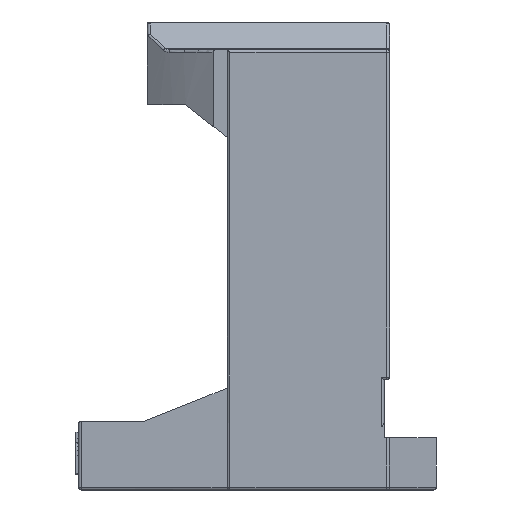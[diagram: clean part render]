
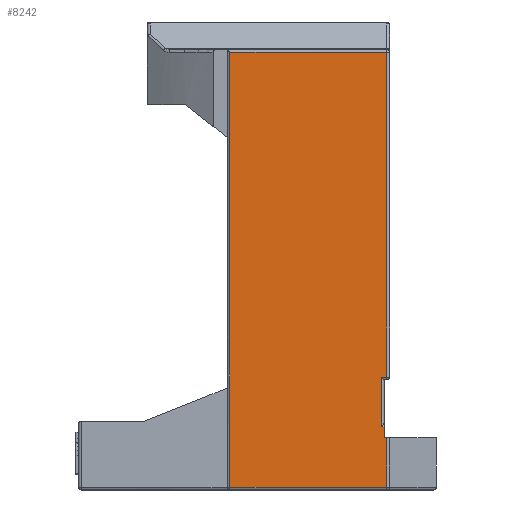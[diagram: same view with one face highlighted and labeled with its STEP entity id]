
A CAD part, left-side view. The second image highlights one B-rep face of the part: STEP entity #8242.
In plain terms, the highlighted planar face has unit normal (-1, 0, 0).
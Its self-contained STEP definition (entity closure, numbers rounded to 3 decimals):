
#1209=DIRECTION('',(0.,-1.,0.));
#1210=VECTOR('',#1209,57.);
#1211=CARTESIAN_POINT('',(-75.,10.,159.));
#1212=LINE('',#1211,#1210);
#1226=DIRECTION('',(0.,0.,1.));
#1227=VECTOR('',#1226,158.);
#1228=CARTESIAN_POINT('',(-75.,10.,1.));
#1229=LINE('',#1228,#1227);
#2170=DIRECTION('',(0.,1.,0.));
#2171=VECTOR('',#2170,2.);
#2172=CARTESIAN_POINT('',(-75.,-47.,41.));
#2173=LINE('',#2172,#2171);
#2182=DIRECTION('',(0.,0.,-1.));
#2183=VECTOR('',#2182,18.);
#2184=CARTESIAN_POINT('',(-75.,-45.,41.));
#2185=LINE('',#2184,#2183);
#2200=DIRECTION('',(0.,-1.,0.));
#2201=VECTOR('',#2200,1.);
#2202=CARTESIAN_POINT('',(-75.,-45.,23.));
#2203=LINE('',#2202,#2201);
#2213=DIRECTION('',(0.,1.,0.));
#2214=VECTOR('',#2213,1.);
#2215=CARTESIAN_POINT('',(-75.,-47.,19.));
#2216=LINE('',#2215,#2214);
#2217=DIRECTION('',(0.,0.,1.));
#2218=VECTOR('',#2217,4.);
#2219=CARTESIAN_POINT('',(-75.,-46.,19.));
#2220=LINE('',#2219,#2218);
#3258=DIRECTION('',(0.,1.,0.));
#3259=VECTOR('',#3258,57.);
#3260=CARTESIAN_POINT('',(-75.,-47.,1.));
#3261=LINE('',#3260,#3259);
#3271=DIRECTION('',(0.,0.,-1.));
#3272=VECTOR('',#3271,18.);
#3273=CARTESIAN_POINT('',(-75.,-47.,19.));
#3274=LINE('',#3273,#3272);
#3295=DIRECTION('',(0.,0.,-1.));
#3296=VECTOR('',#3295,118.);
#3297=CARTESIAN_POINT('',(-75.,-47.,159.));
#3298=LINE('',#3297,#3296);
#4530=CARTESIAN_POINT('',(-75.,-47.,159.));
#4531=CARTESIAN_POINT('',(-75.,-47.,41.));
#4532=VERTEX_POINT('',#4530);
#4533=VERTEX_POINT('',#4531);
#4534=CARTESIAN_POINT('',(-75.,10.,159.));
#4535=VERTEX_POINT('',#4534);
#4536=CARTESIAN_POINT('',(-75.,10.,1.));
#4537=VERTEX_POINT('',#4536);
#4538=CARTESIAN_POINT('',(-75.,-47.,1.));
#4539=VERTEX_POINT('',#4538);
#4540=CARTESIAN_POINT('',(-75.,-45.,41.));
#4541=CARTESIAN_POINT('',(-75.,-45.,23.));
#4542=VERTEX_POINT('',#4540);
#4543=VERTEX_POINT('',#4541);
#5456=CARTESIAN_POINT('',(-75.,-47.,19.));
#5457=CARTESIAN_POINT('',(-75.,-46.,19.));
#5458=VERTEX_POINT('',#5456);
#5459=VERTEX_POINT('',#5457);
#5460=CARTESIAN_POINT('',(-75.,-46.,23.));
#5461=VERTEX_POINT('',#5460);
#8221=CARTESIAN_POINT('',(-75.,72.5,25.));
#8222=DIRECTION('',(1.,0.,0.));
#8223=DIRECTION('',(0.,-1.,0.));
#8224=AXIS2_PLACEMENT_3D('',#8221,#8222,#8223);
#8225=PLANE('',#8224);
#8227=ORIENTED_EDGE('',*,*,#8226,.F.);
#8229=ORIENTED_EDGE('',*,*,#8228,.T.);
#8231=ORIENTED_EDGE('',*,*,#8230,.T.);
#8232=ORIENTED_EDGE('',*,*,#7133,.T.);
#8233=ORIENTED_EDGE('',*,*,#7119,.T.);
#8235=ORIENTED_EDGE('',*,*,#8234,.T.);
#8236=ORIENTED_EDGE('',*,*,#8187,.T.);
#8237=ORIENTED_EDGE('',*,*,#8203,.T.);
#8238=ORIENTED_EDGE('',*,*,#8215,.T.);
#8239=ORIENTED_EDGE('',*,*,#8057,.F.);
#8240=EDGE_LOOP('',(#8227,#8229,#8231,#8232,#8233,#8235,#8236,#8237,#8238,
#8239));
#8241=FACE_OUTER_BOUND('',#8240,.F.);
#7119=EDGE_CURVE('',#4535,#4532,#1212,.T.);
#7133=EDGE_CURVE('',#4537,#4535,#1229,.T.);
#8057=EDGE_CURVE('',#5459,#5461,#2220,.T.);
#8187=EDGE_CURVE('',#4533,#4542,#2173,.T.);
#8203=EDGE_CURVE('',#4542,#4543,#2185,.T.);
#8215=EDGE_CURVE('',#4543,#5461,#2203,.T.);
#8226=EDGE_CURVE('',#5458,#5459,#2216,.T.);
#8228=EDGE_CURVE('',#5458,#4539,#3274,.T.);
#8230=EDGE_CURVE('',#4539,#4537,#3261,.T.);
#8234=EDGE_CURVE('',#4532,#4533,#3298,.T.);
#8242=ADVANCED_FACE('',(#8241),#8225,.F.);
